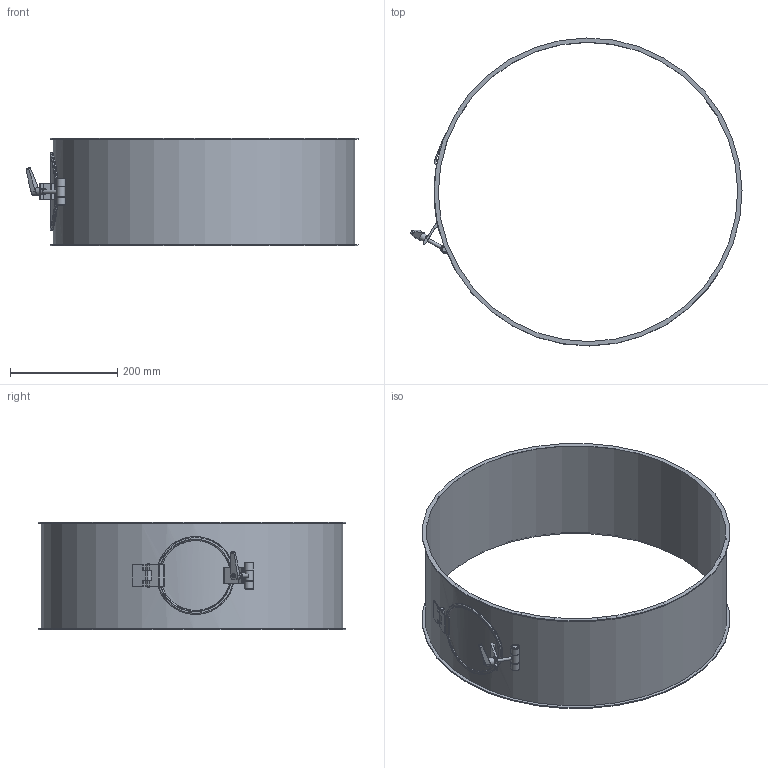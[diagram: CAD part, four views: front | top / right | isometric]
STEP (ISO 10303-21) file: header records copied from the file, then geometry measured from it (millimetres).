
FILE_DESCRIPTION((''),'2;1');
FILE_NAME('U:\Wolfgang\Marcel-3D\fertig\Kapitel 4\5621043.stp','2011-04-21T08:29:28',('TK1'),(''),'Autodesk Inventor 2010','Autodesk Inventor 2010','');
FILE_SCHEMA(('AUTOMOTIVE_DESIGN { 1 0 10303 214 1 1 1 1 }'));
Length unit declared in the file: millimetre
Products named in the file (13): 5621043 (Detailgenauigkeit1); 5621043-1; GelenkDeckel56b; GelenkDeckel1c; Deckel562; Deckel56b; GelenkDeckel35a; dichtung56; Halterung Deckel56; VerschlussB7; Verschluss1; Verschluss2; Verstellbarer Klemmhebel GN 101-14-M6-SW
Assembly tree (13 placements, depth 3):
  5621043 (Detailgenauigkeit1)
    5621043-1
    GelenkDeckel56b
    GelenkDeckel1c
    Deckel562
      Deckel56b
      GelenkDeckel35a
      dichtung56
      Halterung Deckel56
    VerschlussB7
      Verschluss1  x2
      Verschluss2
    Verstellbarer Klemmhebel GN 101-14-M6-SW
Bounding box: 618.86 x 573.98 x 200 mm (x, y, z)
Volume: 793041.3 mm3; surface area: 792092.3 mm2
Topology: 11 solids, 11 shells, 143 faces, 328 edges, 215 vertices
Faces by surface type: plane 67, cylinder 47, cone 18, torus 5, bspline 4, sphere 2
Full cylindrical faces by diameter (mm): 4.8 x1, 6 x5, 8 x1, 10 x3, 11 x2, 14 x1, 15 x1, 16 x2, 115 x1, 130 x1, 135 x1, 145 x1, 558 x1, 562 x1, 574 x2
Entity records: 5708 total; most frequent: CARTESIAN_POINT 2440, DIRECTION 632, ORIENTED_EDGE 532, EDGE_CURVE 266, AXIS2_PLACEMENT_3D 247, VERTEX_POINT 195, EDGE_LOOP 193, VECTOR 138
